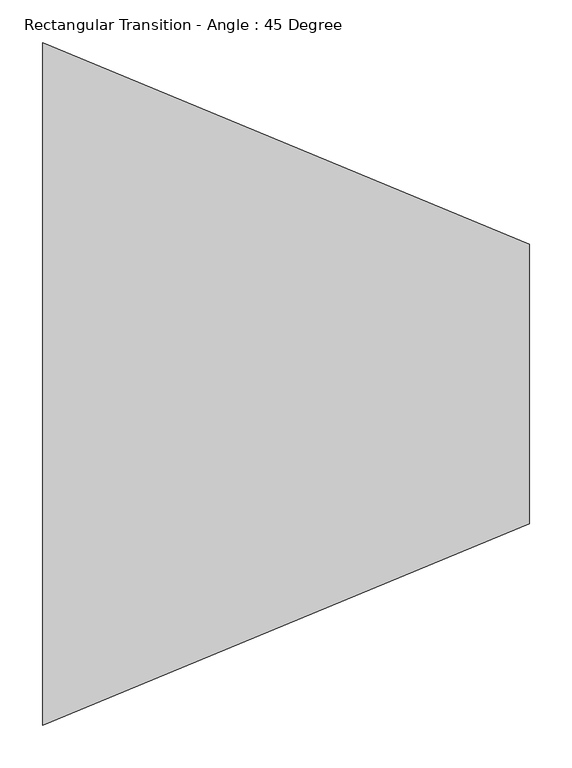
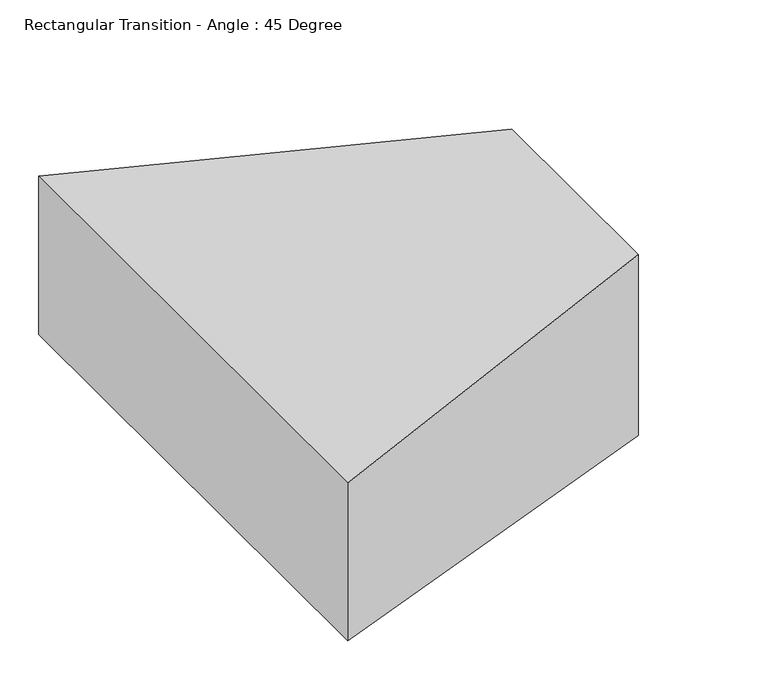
"""IFC4 building model written with IfcOpenShell, lengths in millimetres: duct fitting geometry, Rectangular Transition - Angle : 45 Degree."""

from ifc_helpers import new_model, si_unit, origin, place, context, project, spatial, faceted_brep, source, transform, mapped, element, save


def rectangular_transition_angle_45_degree_7bdca568(model_context):
    return source(origin(), model_context, "Body", "Brep", [
        faceted_brep([(570.9313298, -163.5125, 142.875), (570.9313298, -163.5125, -142.875), (570.9313298, 163.5125, -142.875), (570.9313298, 163.5125, 142.875), (0.0, -400.0, 125.0), (0.0, 400.0, 125.0), (0.0, 400.0, -125.0), (0.0, -400.0, -125.0)], [[[0, 1, 2, 3]], [[4, 5, 6, 7]], [[4, 7, 1, 0]], [[7, 6, 2, 1]], [[6, 5, 3, 2]], [[5, 4, 0, 3]]]),
    ])


if __name__ == "__main__":
    model = new_model("IFC4")
    model_context = context("Model", 3, world=origin())
    ifc_project = project(units=[si_unit("LENGTHUNIT", "METRE", prefix="MILLI")], contexts=[model_context])
    site = spatial("IfcSite", under=ifc_project)
    building = spatial("IfcBuilding", under=site)
    placement = place(None, origin())
    rectangular_transition_angle_45_degree_shape = rectangular_transition_angle_45_degree_7bdca568(model_context)
    element("IfcDuctFitting", 1, ObjectType="Rectangular Transition - Angle : 45 Degree", at=placement, inside=building, context=model_context, shape_type="MappedRepresentation", body=[
        mapped(rectangular_transition_angle_45_degree_shape, transform((0.0, 0.0, 0.0), x_axis=(1.0, 0.0, 0.0), y_axis=(0.0, 1.0, 0.0), z_axis=(0.0, 0.0, 1.0))),
    ])
    save(model, "model.ifc")
